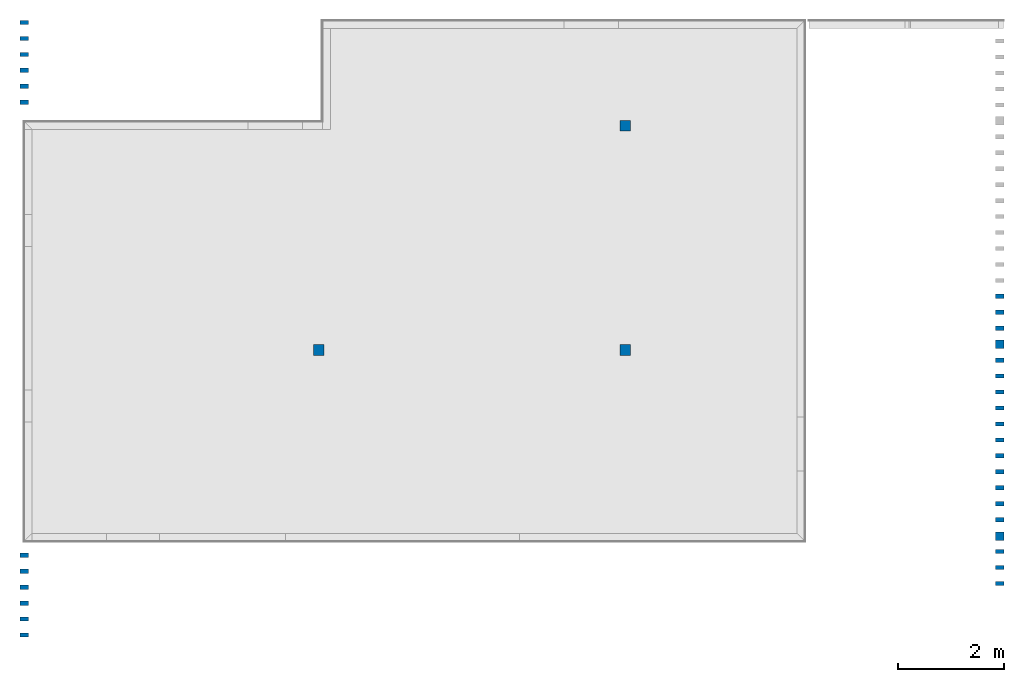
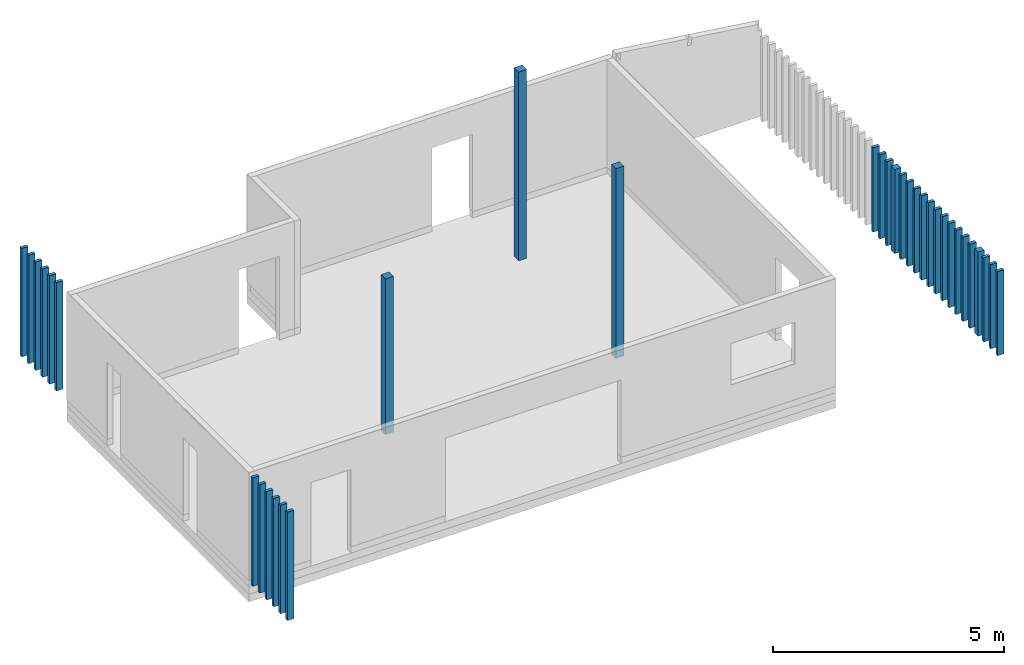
# One storey, part 1 of 3: 34 columns.
"""IFC4 building model written with IfcOpenShell, lengths in centimetres."""

from ifc_helpers import new_model, entity, si_unit, converted_unit, derived_unit, direction, frame, origin, place, context, subcontext, project, spatial, indexed_curve, outline, extrude, source, transform, mapped, material, type_object, type_shapes, element, save


model = new_model("IFC4")

# Units and contexts
model_context = context("Model", 3, precision=0.001, world=origin(), true_north=direction((6.123233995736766e-17, 1.0)))
body_context = subcontext(model_context, "Body", "Model", "MODEL_VIEW")
ifc_project = project(units=[si_unit("LENGTHUNIT", "METRE", prefix="CENTI"), si_unit("AREAUNIT", "SQUARE_METRE"), converted_unit("PLANEANGLEUNIT", "DEGREE", entity("IfcPlaneAngleMeasure", 0.017453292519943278), si_unit("PLANEANGLEUNIT", "RADIAN"), dimensions=[0, 0, 0, 0, 0, 0, 0]), si_unit("VOLUMEUNIT", "CUBIC_METRE"), derived_unit("THERMALTRANSMITTANCEUNIT", [(si_unit("MASSUNIT", "GRAM", prefix="KILO"), 1), (si_unit("THERMODYNAMICTEMPERATUREUNIT", "KELVIN"), -1), (si_unit("TIMEUNIT", "SECOND"), -3)])], contexts=[model_context])

# Site, building, storey
site_placement = place(None, frame((-0.003347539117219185, 0.0, 0.0)))
site = spatial("IfcSite", under=ifc_project, at=site_placement, Name="Default", CompositionType="ELEMENT")
building_placement = place(site_placement, origin())
building = spatial("IfcBuilding", under=site, at=building_placement, CompositionType="ELEMENT")
storey_placement = place(building_placement, frame((0.0, 0.0, 31.0)))
storey = spatial("IfcBuildingStorey", under=building, at=storey_placement, Name="± 0.000", CompositionType="ELEMENT", Elevation=31.000000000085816)

# Columns
ifc_material_1 = material(Name="BCC - C24", Category="Bois")
column_type_1 = type_object("IfcColumnType", Name="Poteau - Bois d'oeuvre:200x200", PredefinedType="COLUMN", material=ifc_material_1)
shared_shape_1 = source(origin(), body_context, "Body", "SweptSolid", [
    extrude(outline(indexed_curve([(-9.999999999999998, -9.999999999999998), (9.999999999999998, -9.999999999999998), (9.999999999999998, 9.999999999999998), (-9.999999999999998, 9.999999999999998), (-9.999999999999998, -9.999999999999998)], self_intersect=False)), frame((0.0, 0.0, 31.0), z_axis=(0.0, 0.0, 1.0), x_axis=(-1.0, 0.0, 0.0)), (0.0, 0.0, 1.0), 500.0),
])
type_shapes(column_type_1, [shared_shape_1])
column_1_placement = place(storey_placement, frame((-5657.586652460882, -1890.875884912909, -31.0)))
element("IfcColumn", 1, at=column_1_placement, inside=storey, type_object=column_type_1, material=ifc_material_1, Name="Poteau - Bois d'oeuvre:200x200", ObjectType="Poteau - Bois d'oeuvre:200x200", PredefinedType="COLUMN", context=body_context, shape_type="MappedRepresentation", body=[
    mapped(shared_shape_1, transform((0.0, 0.0, 0.0), scale=1.0)),
])
column_type_2 = type_object("IfcColumnType", Name="Poteau - Bois d'oeuvre:200x200", PredefinedType="COLUMN", material=ifc_material_1)
shared_shape_2 = source(origin(), body_context, "Body", "SweptSolid", [
    extrude(outline(indexed_curve([(-9.999999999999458, -9.999999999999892), (10.000000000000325, -9.999999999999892), (10.000000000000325, 9.999999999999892), (-9.999999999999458, 9.999999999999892), (-9.999999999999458, -9.999999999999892)], self_intersect=False)), frame((-6234.086652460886, -2312.875884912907, 29.0), z_axis=(0.0, 0.0, 1.0), x_axis=(-1.0, 0.0, 0.0)), (0.0, 0.0, 1.0), 412.0),
])
type_shapes(column_type_2, [shared_shape_2])
column_2_placement = place(storey_placement, frame((0.0, 0.0, -31.0)))
element("IfcColumn", 2, at=column_2_placement, inside=storey, type_object=column_type_2, material=ifc_material_1, Name="Poteau - Bois d'oeuvre:200x200", ObjectType="Poteau - Bois d'oeuvre:200x200", PredefinedType="COLUMN", context=body_context, shape_type="MappedRepresentation", body=[
    mapped(shared_shape_2, transform((0.0, 0.0, 0.0), scale=1.0)),
])
column_type_3 = type_object("IfcColumnType", Name="Poteau - Bois d'oeuvre:200x200", PredefinedType="COLUMN", material=ifc_material_1)
shared_shape_3 = source(origin(), body_context, "Body", "SweptSolid", [
    extrude(outline(indexed_curve([(-9.999999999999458, -9.999999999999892), (10.000000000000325, -9.999999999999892), (10.000000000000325, 9.999999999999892), (-9.999999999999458, 9.999999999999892), (-9.999999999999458, -9.999999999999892)], self_intersect=False)), frame((-5657.586652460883, -2312.875884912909, 29.0), z_axis=(0.0, 0.0, 1.0), x_axis=(-1.0, 0.0, 0.0)), (0.0, 0.0, 1.0), 502.0000000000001),
])
type_shapes(column_type_3, [shared_shape_3])
column_3_placement = place(storey_placement, frame((0.0, 0.0, -31.0)))
element("IfcColumn", 3, at=column_3_placement, inside=storey, type_object=column_type_3, material=ifc_material_1, Name="Poteau - Bois d'oeuvre:200x200", ObjectType="Poteau - Bois d'oeuvre:200x200", PredefinedType="COLUMN", context=body_context, shape_type="MappedRepresentation", body=[
    mapped(shared_shape_3, transform((0.0, 0.0, 0.0), scale=1.0)),
])
ifc_material_2 = material(Name="BM - Douglas", Category="Bois")
column_type_4 = type_object("IfcColumnType", Name="Poteau - Bois d'oeuvre:160x160", PredefinedType="COLUMN", material=ifc_material_2)
shared_shape_4 = source(origin(), body_context, "Body", "SweptSolid", [
    extrude(outline(indexed_curve([(-7.999999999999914, -7.999999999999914), (7.999999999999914, -7.999999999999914), (7.999999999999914, 7.999999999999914), (-7.999999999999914, 7.999999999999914), (-7.999999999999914, -7.999999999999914)], self_intersect=False)), frame((-4953.586652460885, -2662.875884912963, 51.0), z_axis=(0.0, 0.0, 1.0), x_axis=(-1.0, 0.0, 0.0)), (0.0, 0.0, 1.0), 222.99999999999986),
])
type_shapes(column_type_4, [shared_shape_4])
column_4_placement = place(storey_placement, frame((0.0, 0.0, -31.0)))
element("IfcColumn", 4, at=column_4_placement, inside=storey, type_object=column_type_4, material=ifc_material_2, Name="Poteau - Bois d'oeuvre:160x160", ObjectType="Poteau - Bois d'oeuvre:160x160", PredefinedType="COLUMN", context=body_context, shape_type="MappedRepresentation", body=[
    mapped(shared_shape_4, transform((0.0, 0.0, 0.0), scale=1.0)),
])
column_type_5 = type_object("IfcColumnType", Name="Poteau - Bois d'oeuvre:160x160", PredefinedType="COLUMN", material=ifc_material_2)
shared_shape_5 = source(origin(), body_context, "Body", "SweptSolid", [
    extrude(outline(indexed_curve([(-7.999999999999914, -7.999999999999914), (7.999999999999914, -7.999999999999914), (7.999999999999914, 7.999999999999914), (-7.999999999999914, 7.999999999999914), (-7.999999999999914, -7.999999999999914)], self_intersect=False)), frame((-4953.586652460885, -2301.8758849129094, 51.0), z_axis=(0.0, 0.0, 1.0), x_axis=(-1.0, 0.0, 0.0)), (0.0, 0.0, 1.0), 222.99999999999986),
])
type_shapes(column_type_5, [shared_shape_5])
column_5_placement = place(storey_placement, frame((0.0, 0.0, -31.0)))
element("IfcColumn", 5, at=column_5_placement, inside=storey, type_object=column_type_5, material=ifc_material_2, Name="Poteau - Bois d'oeuvre:160x160", ObjectType="Poteau - Bois d'oeuvre:160x160", PredefinedType="COLUMN", context=body_context, shape_type="MappedRepresentation", body=[
    mapped(shared_shape_5, transform((0.0, 0.0, 0.0), scale=1.0)),
])
column_type_6 = type_object("IfcColumnType", Name="Poteau - Bois d'oeuvre:160x80", PredefinedType="COLUMN", material=ifc_material_2)
shared_shape_6 = source(origin(), body_context, "Body", "SweptSolid", [
    extrude(outline(indexed_curve([(-7.999999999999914, -3.999999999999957), (7.999999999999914, -3.999999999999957), (7.999999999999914, 3.999999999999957), (-7.999999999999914, 3.999999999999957), (-7.999999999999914, -3.999999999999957)], self_intersect=False)), frame((-6788.086652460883, -2848.875884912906, 51.0), z_axis=(0.0, 0.0, 1.0), x_axis=(-1.0, 0.0, 0.0)), (0.0, 0.0, 1.0), 286.99999999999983),
])
type_shapes(column_type_6, [shared_shape_6])
column_6_placement = place(storey_placement, frame((0.0, 0.0, -31.0)))
element("IfcColumn", 6, at=column_6_placement, inside=storey, type_object=column_type_6, material=ifc_material_2, Name="Poteau - Bois d'oeuvre:160x80", ObjectType="Poteau - Bois d'oeuvre:160x80", PredefinedType="COLUMN", context=body_context, shape_type="MappedRepresentation", body=[
    mapped(shared_shape_6, transform((0.0, 0.0, 0.0), scale=1.0)),
])
column_type_7 = type_object("IfcColumnType", Name="Poteau - Bois d'oeuvre:160x80", PredefinedType="COLUMN", material=ifc_material_2)
shared_shape_7 = source(origin(), body_context, "Body", "SweptSolid", [
    extrude(outline(indexed_curve([(-7.999999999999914, -3.999999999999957), (7.999999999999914, -3.999999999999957), (7.999999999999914, 3.999999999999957), (-7.999999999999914, 3.999999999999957), (-7.999999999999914, -3.999999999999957)], self_intersect=False)), frame((-6788.086652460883, -2818.875884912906, 51.0), z_axis=(0.0, 0.0, 1.0), x_axis=(-1.0, 0.0, 0.0)), (0.0, 0.0, 1.0), 286.99999999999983),
])
type_shapes(column_type_7, [shared_shape_7])
column_7_placement = place(storey_placement, frame((0.0, 0.0, -31.0)))
element("IfcColumn", 7, at=column_7_placement, inside=storey, type_object=column_type_7, material=ifc_material_2, Name="Poteau - Bois d'oeuvre:160x80", ObjectType="Poteau - Bois d'oeuvre:160x80", PredefinedType="COLUMN", context=body_context, shape_type="MappedRepresentation", body=[
    mapped(shared_shape_7, transform((0.0, 0.0, 0.0), scale=1.0)),
])
column_type_8 = type_object("IfcColumnType", Name="Poteau - Bois d'oeuvre:160x80", PredefinedType="COLUMN", material=ifc_material_2)
shared_shape_8 = source(origin(), body_context, "Body", "SweptSolid", [
    extrude(outline(indexed_curve([(-7.999999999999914, -3.999999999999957), (7.999999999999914, -3.999999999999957), (7.999999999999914, 3.999999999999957), (-7.999999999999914, 3.999999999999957), (-7.999999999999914, -3.999999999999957)], self_intersect=False)), frame((-6788.086652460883, -2788.8758849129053, 51.0), z_axis=(0.0, 0.0, 1.0), x_axis=(-1.0, 0.0, 0.0)), (0.0, 0.0, 1.0), 286.99999999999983),
])
type_shapes(column_type_8, [shared_shape_8])
column_8_placement = place(storey_placement, frame((0.0, 0.0, -31.0)))
element("IfcColumn", 8, at=column_8_placement, inside=storey, type_object=column_type_8, material=ifc_material_2, Name="Poteau - Bois d'oeuvre:160x80", ObjectType="Poteau - Bois d'oeuvre:160x80", PredefinedType="COLUMN", context=body_context, shape_type="MappedRepresentation", body=[
    mapped(shared_shape_8, transform((0.0, 0.0, 0.0), scale=1.0)),
])
column_type_9 = type_object("IfcColumnType", Name="Poteau - Bois d'oeuvre:160x80", PredefinedType="COLUMN", material=ifc_material_2)
shared_shape_9 = source(origin(), body_context, "Body", "SweptSolid", [
    extrude(outline(indexed_curve([(-7.999999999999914, -3.999999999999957), (7.999999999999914, -3.999999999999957), (7.999999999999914, 3.999999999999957), (-7.999999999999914, 3.999999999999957), (-7.999999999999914, -3.999999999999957)], self_intersect=False)), frame((-6788.086652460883, -2758.8758849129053, 51.0), z_axis=(0.0, 0.0, 1.0), x_axis=(-1.0, 0.0, 0.0)), (0.0, 0.0, 1.0), 286.99999999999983),
])
type_shapes(column_type_9, [shared_shape_9])
column_9_placement = place(storey_placement, frame((0.0, 0.0, -31.0)))
element("IfcColumn", 9, at=column_9_placement, inside=storey, type_object=column_type_9, material=ifc_material_2, Name="Poteau - Bois d'oeuvre:160x80", ObjectType="Poteau - Bois d'oeuvre:160x80", PredefinedType="COLUMN", context=body_context, shape_type="MappedRepresentation", body=[
    mapped(shared_shape_9, transform((0.0, 0.0, 0.0), scale=1.0)),
])
column_type_10 = type_object("IfcColumnType", Name="Poteau - Bois d'oeuvre:160x80", PredefinedType="COLUMN", material=ifc_material_2)
shared_shape_10 = source(origin(), body_context, "Body", "SweptSolid", [
    extrude(outline(indexed_curve([(-7.999999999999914, -3.999999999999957), (7.999999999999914, -3.999999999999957), (7.999999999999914, 3.999999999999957), (-7.999999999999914, 3.999999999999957), (-7.999999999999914, -3.999999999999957)], self_intersect=False)), frame((-6788.086652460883, -2728.8758849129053, 51.0), z_axis=(0.0, 0.0, 1.0), x_axis=(-1.0, 0.0, 0.0)), (0.0, 0.0, 1.0), 286.99999999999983),
])
type_shapes(column_type_10, [shared_shape_10])
column_10_placement = place(storey_placement, frame((0.0, 0.0, -31.0)))
element("IfcColumn", 10, at=column_10_placement, inside=storey, type_object=column_type_10, material=ifc_material_2, Name="Poteau - Bois d'oeuvre:160x80", ObjectType="Poteau - Bois d'oeuvre:160x80", PredefinedType="COLUMN", context=body_context, shape_type="MappedRepresentation", body=[
    mapped(shared_shape_10, transform((0.0, 0.0, 0.0), scale=1.0)),
])
column_type_11 = type_object("IfcColumnType", Name="Poteau - Bois d'oeuvre:160x80", PredefinedType="COLUMN", material=ifc_material_2)
shared_shape_11 = source(origin(), body_context, "Body", "SweptSolid", [
    extrude(outline(indexed_curve([(-7.999999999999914, -3.999999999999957), (7.999999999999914, -3.999999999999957), (7.999999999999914, 3.999999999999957), (-7.999999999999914, 3.999999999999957), (-7.999999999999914, -3.999999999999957)], self_intersect=False)), frame((-6788.086652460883, -2698.8758849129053, 51.0), z_axis=(0.0, 0.0, 1.0), x_axis=(-1.0, 0.0, 0.0)), (0.0, 0.0, 1.0), 286.99999999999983),
])
type_shapes(column_type_11, [shared_shape_11])
column_11_placement = place(storey_placement, frame((0.0, 0.0, -31.0)))
element("IfcColumn", 11, at=column_11_placement, inside=storey, type_object=column_type_11, material=ifc_material_2, Name="Poteau - Bois d'oeuvre:160x80", ObjectType="Poteau - Bois d'oeuvre:160x80", PredefinedType="COLUMN", context=body_context, shape_type="MappedRepresentation", body=[
    mapped(shared_shape_11, transform((0.0, 0.0, 0.0), scale=1.0)),
])
column_type_12 = type_object("IfcColumnType", Name="Poteau - Bois d'oeuvre:160x80", PredefinedType="COLUMN", material=ifc_material_2)
shared_shape_12 = source(origin(), body_context, "Body", "SweptSolid", [
    extrude(outline(indexed_curve([(-7.999999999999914, -3.999999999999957), (7.999999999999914, -3.999999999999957), (7.999999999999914, 3.999999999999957), (-7.999999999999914, 3.999999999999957), (-7.999999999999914, -3.999999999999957)], self_intersect=False)), frame((-6788.086652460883, -1696.875884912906, 51.0), z_axis=(0.0, 0.0, 1.0), x_axis=(-1.0, 0.0, 0.0)), (0.0, 0.0, 1.0), 286.99999999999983),
])
type_shapes(column_type_12, [shared_shape_12])
column_12_placement = place(storey_placement, frame((0.0, 0.0, -31.0)))
element("IfcColumn", 12, at=column_12_placement, inside=storey, type_object=column_type_12, material=ifc_material_2, Name="Poteau - Bois d'oeuvre:160x80", ObjectType="Poteau - Bois d'oeuvre:160x80", PredefinedType="COLUMN", context=body_context, shape_type="MappedRepresentation", body=[
    mapped(shared_shape_12, transform((0.0, 0.0, 0.0), scale=1.0)),
])
column_type_13 = type_object("IfcColumnType", Name="Poteau - Bois d'oeuvre:160x80", PredefinedType="COLUMN", material=ifc_material_2)
shared_shape_13 = source(origin(), body_context, "Body", "SweptSolid", [
    extrude(outline(indexed_curve([(-7.999999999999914, -3.999999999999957), (7.999999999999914, -3.999999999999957), (7.999999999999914, 3.999999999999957), (-7.999999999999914, 3.999999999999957), (-7.999999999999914, -3.999999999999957)], self_intersect=False)), frame((-6788.086652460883, -1726.8758849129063, 51.0), z_axis=(0.0, 0.0, 1.0), x_axis=(-1.0, 0.0, 0.0)), (0.0, 0.0, 1.0), 286.99999999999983),
])
type_shapes(column_type_13, [shared_shape_13])
column_13_placement = place(storey_placement, frame((0.0, 0.0, -31.0)))
element("IfcColumn", 13, at=column_13_placement, inside=storey, type_object=column_type_13, material=ifc_material_2, Name="Poteau - Bois d'oeuvre:160x80", ObjectType="Poteau - Bois d'oeuvre:160x80", PredefinedType="COLUMN", context=body_context, shape_type="MappedRepresentation", body=[
    mapped(shared_shape_13, transform((0.0, 0.0, 0.0), scale=1.0)),
])
column_type_14 = type_object("IfcColumnType", Name="Poteau - Bois d'oeuvre:160x80", PredefinedType="COLUMN", material=ifc_material_2)
shared_shape_14 = source(origin(), body_context, "Body", "SweptSolid", [
    extrude(outline(indexed_curve([(-7.999999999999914, -3.999999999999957), (7.999999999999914, -3.999999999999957), (7.999999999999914, 3.999999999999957), (-7.999999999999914, 3.999999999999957), (-7.999999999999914, -3.999999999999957)], self_intersect=False)), frame((-6788.086652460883, -1756.8758849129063, 51.0), z_axis=(0.0, 0.0, 1.0), x_axis=(-1.0, 0.0, 0.0)), (0.0, 0.0, 1.0), 286.99999999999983),
])
type_shapes(column_type_14, [shared_shape_14])
column_14_placement = place(storey_placement, frame((0.0, 0.0, -31.0)))
element("IfcColumn", 14, at=column_14_placement, inside=storey, type_object=column_type_14, material=ifc_material_2, Name="Poteau - Bois d'oeuvre:160x80", ObjectType="Poteau - Bois d'oeuvre:160x80", PredefinedType="COLUMN", context=body_context, shape_type="MappedRepresentation", body=[
    mapped(shared_shape_14, transform((0.0, 0.0, 0.0), scale=1.0)),
])
column_type_15 = type_object("IfcColumnType", Name="Poteau - Bois d'oeuvre:160x80", PredefinedType="COLUMN", material=ifc_material_2)
shared_shape_15 = source(origin(), body_context, "Body", "SweptSolid", [
    extrude(outline(indexed_curve([(-7.999999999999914, -3.999999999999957), (7.999999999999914, -3.999999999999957), (7.999999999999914, 3.999999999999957), (-7.999999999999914, 3.999999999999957), (-7.999999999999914, -3.999999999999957)], self_intersect=False)), frame((-6788.086652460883, -1786.8758849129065, 51.0), z_axis=(0.0, 0.0, 1.0), x_axis=(-1.0, 0.0, 0.0)), (0.0, 0.0, 1.0), 286.99999999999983),
])
type_shapes(column_type_15, [shared_shape_15])
column_15_placement = place(storey_placement, frame((0.0, 0.0, -31.0)))
element("IfcColumn", 15, at=column_15_placement, inside=storey, type_object=column_type_15, material=ifc_material_2, Name="Poteau - Bois d'oeuvre:160x80", ObjectType="Poteau - Bois d'oeuvre:160x80", PredefinedType="COLUMN", context=body_context, shape_type="MappedRepresentation", body=[
    mapped(shared_shape_15, transform((0.0, 0.0, 0.0), scale=1.0)),
])
column_type_16 = type_object("IfcColumnType", Name="Poteau - Bois d'oeuvre:160x80", PredefinedType="COLUMN", material=ifc_material_2)
shared_shape_16 = source(origin(), body_context, "Body", "SweptSolid", [
    extrude(outline(indexed_curve([(-7.999999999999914, -3.999999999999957), (7.999999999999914, -3.999999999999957), (7.999999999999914, 3.999999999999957), (-7.999999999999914, 3.999999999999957), (-7.999999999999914, -3.999999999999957)], self_intersect=False)), frame((-6788.086652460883, -1816.8758849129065, 51.0), z_axis=(0.0, 0.0, 1.0), x_axis=(-1.0, 0.0, 0.0)), (0.0, 0.0, 1.0), 286.99999999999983),
])
type_shapes(column_type_16, [shared_shape_16])
column_16_placement = place(storey_placement, frame((0.0, 0.0, -31.0)))
element("IfcColumn", 16, at=column_16_placement, inside=storey, type_object=column_type_16, material=ifc_material_2, Name="Poteau - Bois d'oeuvre:160x80", ObjectType="Poteau - Bois d'oeuvre:160x80", PredefinedType="COLUMN", context=body_context, shape_type="MappedRepresentation", body=[
    mapped(shared_shape_16, transform((0.0, 0.0, 0.0), scale=1.0)),
])
column_type_17 = type_object("IfcColumnType", Name="Poteau - Bois d'oeuvre:160x80", PredefinedType="COLUMN", material=ifc_material_2)
shared_shape_17 = source(origin(), body_context, "Body", "SweptSolid", [
    extrude(outline(indexed_curve([(-7.999999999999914, -3.999999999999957), (7.999999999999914, -3.999999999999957), (7.999999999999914, 3.999999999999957), (-7.999999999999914, 3.999999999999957), (-7.999999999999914, -3.999999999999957)], self_intersect=False)), frame((-6788.086652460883, -1846.8758849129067, 51.0), z_axis=(0.0, 0.0, 1.0), x_axis=(-1.0, 0.0, 0.0)), (0.0, 0.0, 1.0), 286.99999999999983),
])
type_shapes(column_type_17, [shared_shape_17])
column_17_placement = place(storey_placement, frame((0.0, 0.0, -31.0)))
element("IfcColumn", 17, at=column_17_placement, inside=storey, type_object=column_type_17, material=ifc_material_2, Name="Poteau - Bois d'oeuvre:160x80", ObjectType="Poteau - Bois d'oeuvre:160x80", PredefinedType="COLUMN", context=body_context, shape_type="MappedRepresentation", body=[
    mapped(shared_shape_17, transform((0.0, 0.0, 0.0), scale=1.0)),
])
column_type_18 = type_object("IfcColumnType", Name="Poteau - Bois d'oeuvre:160x80", PredefinedType="COLUMN", material=ifc_material_2)
shared_shape_18 = source(origin(), body_context, "Body", "SweptSolid", [
    extrude(outline(indexed_curve([(-7.999999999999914, -3.999999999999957), (7.999999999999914, -3.999999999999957), (7.999999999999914, 3.999999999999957), (-7.999999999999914, 3.999999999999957), (-7.999999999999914, -3.999999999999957)], self_intersect=False)), frame((-4953.586652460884, -2751.875884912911, 51.0), z_axis=(0.0, 0.0, 1.0), x_axis=(-1.0, 0.0, 0.0)), (0.0, 0.0, 1.0), 222.99999999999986),
])
type_shapes(column_type_18, [shared_shape_18])
column_18_placement = place(storey_placement, frame((0.0, 0.0, -31.0)))
element("IfcColumn", 18, at=column_18_placement, inside=storey, type_object=column_type_18, material=ifc_material_2, Name="Poteau - Bois d'oeuvre:160x80", ObjectType="Poteau - Bois d'oeuvre:160x80", PredefinedType="COLUMN", context=body_context, shape_type="MappedRepresentation", body=[
    mapped(shared_shape_18, transform((0.0, 0.0, 0.0), scale=1.0)),
])
column_type_19 = type_object("IfcColumnType", Name="Poteau - Bois d'oeuvre:160x80", PredefinedType="COLUMN", material=ifc_material_2)
shared_shape_19 = source(origin(), body_context, "Body", "SweptSolid", [
    extrude(outline(indexed_curve([(-7.999999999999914, -3.999999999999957), (7.999999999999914, -3.999999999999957), (7.999999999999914, 3.999999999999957), (-7.999999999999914, 3.999999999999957), (-7.999999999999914, -3.999999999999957)], self_intersect=False)), frame((-4953.586652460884, -2721.875884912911, 51.0), z_axis=(0.0, 0.0, 1.0), x_axis=(-1.0, 0.0, 0.0)), (0.0, 0.0, 1.0), 222.99999999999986),
])
type_shapes(column_type_19, [shared_shape_19])
column_19_placement = place(storey_placement, frame((0.0, 0.0, -31.0)))
element("IfcColumn", 19, at=column_19_placement, inside=storey, type_object=column_type_19, material=ifc_material_2, Name="Poteau - Bois d'oeuvre:160x80", ObjectType="Poteau - Bois d'oeuvre:160x80", PredefinedType="COLUMN", context=body_context, shape_type="MappedRepresentation", body=[
    mapped(shared_shape_19, transform((0.0, 0.0, 0.0), scale=1.0)),
])
column_type_20 = type_object("IfcColumnType", Name="Poteau - Bois d'oeuvre:160x80", PredefinedType="COLUMN", material=ifc_material_2)
shared_shape_20 = source(origin(), body_context, "Body", "SweptSolid", [
    extrude(outline(indexed_curve([(-7.999999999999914, -3.999999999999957), (7.999999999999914, -3.999999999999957), (7.999999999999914, 3.999999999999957), (-7.999999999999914, 3.999999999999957), (-7.999999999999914, -3.999999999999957)], self_intersect=False)), frame((-4953.586652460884, -2691.875884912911, 51.0), z_axis=(0.0, 0.0, 1.0), x_axis=(-1.0, 0.0, 0.0)), (0.0, 0.0, 1.0), 222.99999999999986),
])
type_shapes(column_type_20, [shared_shape_20])
column_20_placement = place(storey_placement, frame((0.0, 0.0, -31.0)))
element("IfcColumn", 20, at=column_20_placement, inside=storey, type_object=column_type_20, material=ifc_material_2, Name="Poteau - Bois d'oeuvre:160x80", ObjectType="Poteau - Bois d'oeuvre:160x80", PredefinedType="COLUMN", context=body_context, shape_type="MappedRepresentation", body=[
    mapped(shared_shape_20, transform((0.0, 0.0, 0.0), scale=1.0)),
])
column_type_21 = type_object("IfcColumnType", Name="Poteau - Bois d'oeuvre:160x80", PredefinedType="COLUMN", material=ifc_material_2)
shared_shape_21 = source(origin(), body_context, "Body", "SweptSolid", [
    extrude(outline(indexed_curve([(-7.999999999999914, -3.999999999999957), (7.999999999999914, -3.999999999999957), (7.999999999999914, 3.999999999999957), (-7.999999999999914, 3.999999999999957), (-7.999999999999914, -3.999999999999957)], self_intersect=False)), frame((-4953.586652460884, -2631.8758849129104, 51.0), z_axis=(0.0, 0.0, 1.0), x_axis=(-1.0, 0.0, 0.0)), (0.0, 0.0, 1.0), 222.99999999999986),
])
type_shapes(column_type_21, [shared_shape_21])
column_21_placement = place(storey_placement, frame((0.0, 0.0, -31.0)))
element("IfcColumn", 21, at=column_21_placement, inside=storey, type_object=column_type_21, material=ifc_material_2, Name="Poteau - Bois d'oeuvre:160x80", ObjectType="Poteau - Bois d'oeuvre:160x80", PredefinedType="COLUMN", context=body_context, shape_type="MappedRepresentation", body=[
    mapped(shared_shape_21, transform((0.0, 0.0, 0.0), scale=1.0)),
])
column_type_22 = type_object("IfcColumnType", Name="Poteau - Bois d'oeuvre:160x80", PredefinedType="COLUMN", material=ifc_material_2)
shared_shape_22 = source(origin(), body_context, "Body", "SweptSolid", [
    extrude(outline(indexed_curve([(-7.999999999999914, -3.999999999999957), (7.999999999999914, -3.999999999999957), (7.999999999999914, 3.999999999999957), (-7.999999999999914, 3.999999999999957), (-7.999999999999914, -3.999999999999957)], self_intersect=False)), frame((-4953.586652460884, -2601.8758849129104, 51.0), z_axis=(0.0, 0.0, 1.0), x_axis=(-1.0, 0.0, 0.0)), (0.0, 0.0, 1.0), 222.99999999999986),
])
type_shapes(column_type_22, [shared_shape_22])
column_22_placement = place(storey_placement, frame((0.0, 0.0, -31.0)))
element("IfcColumn", 22, at=column_22_placement, inside=storey, type_object=column_type_22, material=ifc_material_2, Name="Poteau - Bois d'oeuvre:160x80", ObjectType="Poteau - Bois d'oeuvre:160x80", PredefinedType="COLUMN", context=body_context, shape_type="MappedRepresentation", body=[
    mapped(shared_shape_22, transform((0.0, 0.0, 0.0), scale=1.0)),
])
column_type_23 = type_object("IfcColumnType", Name="Poteau - Bois d'oeuvre:160x80", PredefinedType="COLUMN", material=ifc_material_2)
shared_shape_23 = source(origin(), body_context, "Body", "SweptSolid", [
    extrude(outline(indexed_curve([(-7.999999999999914, -3.999999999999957), (7.999999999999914, -3.999999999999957), (7.999999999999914, 3.999999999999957), (-7.999999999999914, 3.999999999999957), (-7.999999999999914, -3.999999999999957)], self_intersect=False)), frame((-4953.586652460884, -2571.8758849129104, 51.0), z_axis=(0.0, 0.0, 1.0), x_axis=(-1.0, 0.0, 0.0)), (0.0, 0.0, 1.0), 222.99999999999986),
])
type_shapes(column_type_23, [shared_shape_23])
column_23_placement = place(storey_placement, frame((0.0, 0.0, -31.0)))
element("IfcColumn", 23, at=column_23_placement, inside=storey, type_object=column_type_23, material=ifc_material_2, Name="Poteau - Bois d'oeuvre:160x80", ObjectType="Poteau - Bois d'oeuvre:160x80", PredefinedType="COLUMN", context=body_context, shape_type="MappedRepresentation", body=[
    mapped(shared_shape_23, transform((0.0, 0.0, 0.0), scale=1.0)),
])
column_type_24 = type_object("IfcColumnType", Name="Poteau - Bois d'oeuvre:160x80", PredefinedType="COLUMN", material=ifc_material_2)
shared_shape_24 = source(origin(), body_context, "Body", "SweptSolid", [
    extrude(outline(indexed_curve([(-7.999999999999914, -3.999999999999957), (7.999999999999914, -3.999999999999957), (7.999999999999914, 3.999999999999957), (-7.999999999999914, 3.999999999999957), (-7.999999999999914, -3.999999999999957)], self_intersect=False)), frame((-4953.586652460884, -2541.8758849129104, 51.0), z_axis=(0.0, 0.0, 1.0), x_axis=(-1.0, 0.0, 0.0)), (0.0, 0.0, 1.0), 222.99999999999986),
])
type_shapes(column_type_24, [shared_shape_24])
column_24_placement = place(storey_placement, frame((0.0, 0.0, -31.0)))
element("IfcColumn", 24, at=column_24_placement, inside=storey, type_object=column_type_24, material=ifc_material_2, Name="Poteau - Bois d'oeuvre:160x80", ObjectType="Poteau - Bois d'oeuvre:160x80", PredefinedType="COLUMN", context=body_context, shape_type="MappedRepresentation", body=[
    mapped(shared_shape_24, transform((0.0, 0.0, 0.0), scale=1.0)),
])
column_type_25 = type_object("IfcColumnType", Name="Poteau - Bois d'oeuvre:160x80", PredefinedType="COLUMN", material=ifc_material_2)
shared_shape_25 = source(origin(), body_context, "Body", "SweptSolid", [
    extrude(outline(indexed_curve([(-7.999999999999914, -3.999999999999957), (7.999999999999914, -3.999999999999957), (7.999999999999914, 3.999999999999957), (-7.999999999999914, 3.999999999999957), (-7.999999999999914, -3.999999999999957)], self_intersect=False)), frame((-4953.586652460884, -2511.87588491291, 51.0), z_axis=(0.0, 0.0, 1.0), x_axis=(-1.0, 0.0, 0.0)), (0.0, 0.0, 1.0), 222.99999999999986),
])
type_shapes(column_type_25, [shared_shape_25])
column_25_placement = place(storey_placement, frame((0.0, 0.0, -31.0)))
element("IfcColumn", 25, at=column_25_placement, inside=storey, type_object=column_type_25, material=ifc_material_2, Name="Poteau - Bois d'oeuvre:160x80", ObjectType="Poteau - Bois d'oeuvre:160x80", PredefinedType="COLUMN", context=body_context, shape_type="MappedRepresentation", body=[
    mapped(shared_shape_25, transform((0.0, 0.0, 0.0), scale=1.0)),
])
column_type_26 = type_object("IfcColumnType", Name="Poteau - Bois d'oeuvre:160x80", PredefinedType="COLUMN", material=ifc_material_2)
shared_shape_26 = source(origin(), body_context, "Body", "SweptSolid", [
    extrude(outline(indexed_curve([(-7.999999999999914, -3.999999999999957), (7.999999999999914, -3.999999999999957), (7.999999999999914, 3.999999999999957), (-7.999999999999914, 3.999999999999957), (-7.999999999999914, -3.999999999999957)], self_intersect=False)), frame((-4953.586652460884, -2481.87588491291, 51.0), z_axis=(0.0, 0.0, 1.0), x_axis=(-1.0, 0.0, 0.0)), (0.0, 0.0, 1.0), 222.99999999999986),
])
type_shapes(column_type_26, [shared_shape_26])
column_26_placement = place(storey_placement, frame((0.0, 0.0, -31.0)))
element("IfcColumn", 26, at=column_26_placement, inside=storey, type_object=column_type_26, material=ifc_material_2, Name="Poteau - Bois d'oeuvre:160x80", ObjectType="Poteau - Bois d'oeuvre:160x80", PredefinedType="COLUMN", context=body_context, shape_type="MappedRepresentation", body=[
    mapped(shared_shape_26, transform((0.0, 0.0, 0.0), scale=1.0)),
])
column_type_27 = type_object("IfcColumnType", Name="Poteau - Bois d'oeuvre:160x80", PredefinedType="COLUMN", material=ifc_material_2)
shared_shape_27 = source(origin(), body_context, "Body", "SweptSolid", [
    extrude(outline(indexed_curve([(-7.999999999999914, -3.999999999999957), (7.999999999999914, -3.999999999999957), (7.999999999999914, 3.999999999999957), (-7.999999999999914, 3.999999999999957), (-7.999999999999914, -3.999999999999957)], self_intersect=False)), frame((-4953.586652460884, -2451.87588491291, 51.0), z_axis=(0.0, 0.0, 1.0), x_axis=(-1.0, 0.0, 0.0)), (0.0, 0.0, 1.0), 222.99999999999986),
])
type_shapes(column_type_27, [shared_shape_27])
column_27_placement = place(storey_placement, frame((0.0, 0.0, -31.0)))
element("IfcColumn", 27, at=column_27_placement, inside=storey, type_object=column_type_27, material=ifc_material_2, Name="Poteau - Bois d'oeuvre:160x80", ObjectType="Poteau - Bois d'oeuvre:160x80", PredefinedType="COLUMN", context=body_context, shape_type="MappedRepresentation", body=[
    mapped(shared_shape_27, transform((0.0, 0.0, 0.0), scale=1.0)),
])
column_type_28 = type_object("IfcColumnType", Name="Poteau - Bois d'oeuvre:160x80", PredefinedType="COLUMN", material=ifc_material_2)
shared_shape_28 = source(origin(), body_context, "Body", "SweptSolid", [
    extrude(outline(indexed_curve([(-7.999999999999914, -3.999999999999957), (7.999999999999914, -3.999999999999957), (7.999999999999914, 3.999999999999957), (-7.999999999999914, 3.999999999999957), (-7.999999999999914, -3.999999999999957)], self_intersect=False)), frame((-4953.586652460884, -2421.87588491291, 51.0), z_axis=(0.0, 0.0, 1.0), x_axis=(-1.0, 0.0, 0.0)), (0.0, 0.0, 1.0), 222.99999999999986),
])
type_shapes(column_type_28, [shared_shape_28])
column_28_placement = place(storey_placement, frame((0.0, 0.0, -31.0)))
element("IfcColumn", 28, at=column_28_placement, inside=storey, type_object=column_type_28, material=ifc_material_2, Name="Poteau - Bois d'oeuvre:160x80", ObjectType="Poteau - Bois d'oeuvre:160x80", PredefinedType="COLUMN", context=body_context, shape_type="MappedRepresentation", body=[
    mapped(shared_shape_28, transform((0.0, 0.0, 0.0), scale=1.0)),
])
column_type_29 = type_object("IfcColumnType", Name="Poteau - Bois d'oeuvre:160x80", PredefinedType="COLUMN", material=ifc_material_2)
shared_shape_29 = source(origin(), body_context, "Body", "SweptSolid", [
    extrude(outline(indexed_curve([(-7.999999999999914, -3.999999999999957), (7.999999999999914, -3.999999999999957), (7.999999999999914, 3.999999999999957), (-7.999999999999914, 3.999999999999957), (-7.999999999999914, -3.999999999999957)], self_intersect=False)), frame((-4953.586652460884, -2391.8758849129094, 51.0), z_axis=(0.0, 0.0, 1.0), x_axis=(-1.0, 0.0, 0.0)), (0.0, 0.0, 1.0), 222.99999999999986),
])
type_shapes(column_type_29, [shared_shape_29])
column_29_placement = place(storey_placement, frame((0.0, 0.0, -31.0)))
element("IfcColumn", 29, at=column_29_placement, inside=storey, type_object=column_type_29, material=ifc_material_2, Name="Poteau - Bois d'oeuvre:160x80", ObjectType="Poteau - Bois d'oeuvre:160x80", PredefinedType="COLUMN", context=body_context, shape_type="MappedRepresentation", body=[
    mapped(shared_shape_29, transform((0.0, 0.0, 0.0), scale=1.0)),
])
column_type_30 = type_object("IfcColumnType", Name="Poteau - Bois d'oeuvre:160x80", PredefinedType="COLUMN", material=ifc_material_2)
shared_shape_30 = source(origin(), body_context, "Body", "SweptSolid", [
    extrude(outline(indexed_curve([(-7.999999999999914, -3.999999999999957), (7.999999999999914, -3.999999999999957), (7.999999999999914, 3.999999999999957), (-7.999999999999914, 3.999999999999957), (-7.999999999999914, -3.999999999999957)], self_intersect=False)), frame((-4953.586652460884, -2361.8758849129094, 51.0), z_axis=(0.0, 0.0, 1.0), x_axis=(-1.0, 0.0, 0.0)), (0.0, 0.0, 1.0), 222.99999999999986),
])
type_shapes(column_type_30, [shared_shape_30])
column_30_placement = place(storey_placement, frame((0.0, 0.0, -31.0)))
element("IfcColumn", 30, at=column_30_placement, inside=storey, type_object=column_type_30, material=ifc_material_2, Name="Poteau - Bois d'oeuvre:160x80", ObjectType="Poteau - Bois d'oeuvre:160x80", PredefinedType="COLUMN", context=body_context, shape_type="MappedRepresentation", body=[
    mapped(shared_shape_30, transform((0.0, 0.0, 0.0), scale=1.0)),
])
column_type_31 = type_object("IfcColumnType", Name="Poteau - Bois d'oeuvre:160x80", PredefinedType="COLUMN", material=ifc_material_2)
shared_shape_31 = source(origin(), body_context, "Body", "SweptSolid", [
    extrude(outline(indexed_curve([(-7.999999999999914, -3.999999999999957), (7.999999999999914, -3.999999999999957), (7.999999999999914, 3.999999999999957), (-7.999999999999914, 3.999999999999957), (-7.999999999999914, -3.999999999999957)], self_intersect=False)), frame((-4953.586652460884, -2331.8758849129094, 51.0), z_axis=(0.0, 0.0, 1.0), x_axis=(-1.0, 0.0, 0.0)), (0.0, 0.0, 1.0), 222.99999999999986),
])
type_shapes(column_type_31, [shared_shape_31])
column_31_placement = place(storey_placement, frame((0.0, 0.0, -31.0)))
element("IfcColumn", 31, at=column_31_placement, inside=storey, type_object=column_type_31, material=ifc_material_2, Name="Poteau - Bois d'oeuvre:160x80", ObjectType="Poteau - Bois d'oeuvre:160x80", PredefinedType="COLUMN", context=body_context, shape_type="MappedRepresentation", body=[
    mapped(shared_shape_31, transform((0.0, 0.0, 0.0), scale=1.0)),
])
column_type_32 = type_object("IfcColumnType", Name="Poteau - Bois d'oeuvre:160x80", PredefinedType="COLUMN", material=ifc_material_2)
shared_shape_32 = source(origin(), body_context, "Body", "SweptSolid", [
    extrude(outline(indexed_curve([(-7.999999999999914, -3.999999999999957), (7.999999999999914, -3.999999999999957), (7.999999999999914, 3.999999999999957), (-7.999999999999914, 3.999999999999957), (-7.999999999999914, -3.999999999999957)], self_intersect=False)), frame((-4953.586652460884, -2271.875884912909, 51.0), z_axis=(0.0, 0.0, 1.0), x_axis=(-1.0, 0.0, 0.0)), (0.0, 0.0, 1.0), 222.99999999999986),
])
type_shapes(column_type_32, [shared_shape_32])
column_32_placement = place(storey_placement, frame((0.0, 0.0, -31.0)))
element("IfcColumn", 32, at=column_32_placement, inside=storey, type_object=column_type_32, material=ifc_material_2, Name="Poteau - Bois d'oeuvre:160x80", ObjectType="Poteau - Bois d'oeuvre:160x80", PredefinedType="COLUMN", context=body_context, shape_type="MappedRepresentation", body=[
    mapped(shared_shape_32, transform((0.0, 0.0, 0.0), scale=1.0)),
])
column_type_33 = type_object("IfcColumnType", Name="Poteau - Bois d'oeuvre:160x80", PredefinedType="COLUMN", material=ifc_material_2)
shared_shape_33 = source(origin(), body_context, "Body", "SweptSolid", [
    extrude(outline(indexed_curve([(-7.999999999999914, -3.999999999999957), (7.999999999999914, -3.999999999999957), (7.999999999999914, 3.999999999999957), (-7.999999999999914, 3.999999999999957), (-7.999999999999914, -3.999999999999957)], self_intersect=False)), frame((-4953.586652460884, -2241.875884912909, 51.0), z_axis=(0.0, 0.0, 1.0), x_axis=(-1.0, 0.0, 0.0)), (0.0, 0.0, 1.0), 222.99999999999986),
])
type_shapes(column_type_33, [shared_shape_33])
column_33_placement = place(storey_placement, frame((0.0, 0.0, -31.0)))
element("IfcColumn", 33, at=column_33_placement, inside=storey, type_object=column_type_33, material=ifc_material_2, Name="Poteau - Bois d'oeuvre:160x80", ObjectType="Poteau - Bois d'oeuvre:160x80", PredefinedType="COLUMN", context=body_context, shape_type="MappedRepresentation", body=[
    mapped(shared_shape_33, transform((0.0, 0.0, 0.0), scale=1.0)),
])
column_type_34 = type_object("IfcColumnType", Name="Poteau - Bois d'oeuvre:160x80", PredefinedType="COLUMN", material=ifc_material_2)
shared_shape_34 = source(origin(), body_context, "Body", "SweptSolid", [
    extrude(outline(indexed_curve([(-7.999999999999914, -3.999999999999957), (7.999999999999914, -3.999999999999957), (7.999999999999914, 3.999999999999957), (-7.999999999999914, 3.999999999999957), (-7.999999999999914, -3.999999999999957)], self_intersect=False)), frame((-4953.586652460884, -2211.875884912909, 51.0), z_axis=(0.0, 0.0, 1.0), x_axis=(-1.0, 0.0, 0.0)), (0.0, 0.0, 1.0), 222.99999999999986),
])
type_shapes(column_type_34, [shared_shape_34])
column_34_placement = place(storey_placement, frame((0.0, 0.0, -31.0)))
element("IfcColumn", 34, at=column_34_placement, inside=storey, type_object=column_type_34, material=ifc_material_2, Name="Poteau - Bois d'oeuvre:160x80", ObjectType="Poteau - Bois d'oeuvre:160x80", PredefinedType="COLUMN", context=body_context, shape_type="MappedRepresentation", body=[
    mapped(shared_shape_34, transform((0.0, 0.0, 0.0), scale=1.0)),
])

save(model, "model.ifc")
